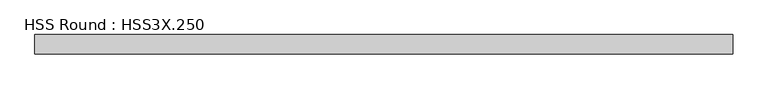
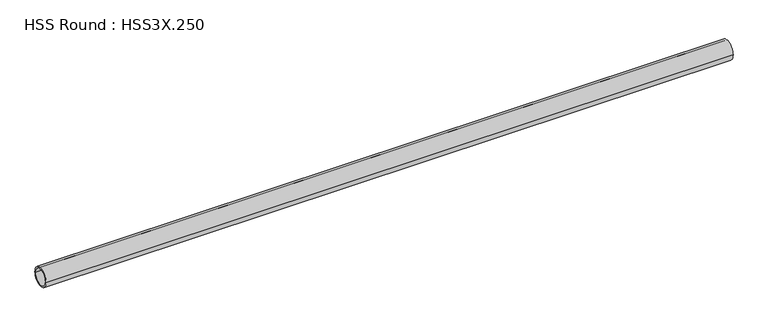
"""IFC4 building model written with IfcOpenShell, lengths in millimetres: member geometry, HSS Round : HSS3X.250."""

from ifc_helpers import new_model, si_unit, point, frame, origin, origin_2d, place, context, project, spatial, circle_curve, trimmed, segment, composite_curve, outline, extrude, source, transform, mapped, element, save


def hss_round_hss3x_250_b1a33e7d(model_context):
    return source(origin(), model_context, "Body", "SweptSolid", [
        extrude(outline(composite_curve([segment(trimmed(circle_curve(origin_2d(), 38.1), [point((-38.1, 0.0))], [point((38.1, 0.0))], False, "CARTESIAN"), True, "CONTINUOUS"), segment(trimmed(circle_curve(origin_2d(), 38.1), [point((38.1, 0.0))], [point((-38.1, 0.0))], False, "CARTESIAN"), True, "CONTINUOUS")], self_intersect=False), holes=[composite_curve([segment(trimmed(circle_curve(origin_2d(), 31.75), [point((31.75, 0.0))], [point((-31.75, 0.0))], True, "CARTESIAN"), True, "CONTINUOUS"), segment(trimmed(circle_curve(origin_2d(), 31.75), [point((-31.75, 0.0))], [point((31.75, 0.0))], True, "CARTESIAN"), True, "CONTINUOUS")], self_intersect=False)]), frame((-1406.0362575, 0.0, 0.0), z_axis=(1.0, 0.0, 0.0), x_axis=(0.0, 1.0, 0.0)), (0.0, 0.0, 1.0), 2729.4269563),
    ])


if __name__ == "__main__":
    model = new_model("IFC4")
    model_context = context("Model", 3, world=origin())
    ifc_project = project(units=[si_unit("LENGTHUNIT", "METRE", prefix="MILLI")], contexts=[model_context])
    site = spatial("IfcSite", under=ifc_project)
    building = spatial("IfcBuilding", under=site)
    placement = place(None, origin())
    hss_round_hss3x_250_shape = hss_round_hss3x_250_b1a33e7d(model_context)
    element("IfcMember", 1, ObjectType="HSS Round : HSS3X.250", at=placement, inside=building, context=model_context, shape_type="MappedRepresentation", body=[
        mapped(hss_round_hss3x_250_shape, transform((0.0, 0.0, 0.0), x_axis=(1.0, 0.0, 0.0), y_axis=(0.0, 1.0, 0.0), z_axis=(0.0, 0.0, 1.0))),
    ])
    save(model, "model.ifc")
